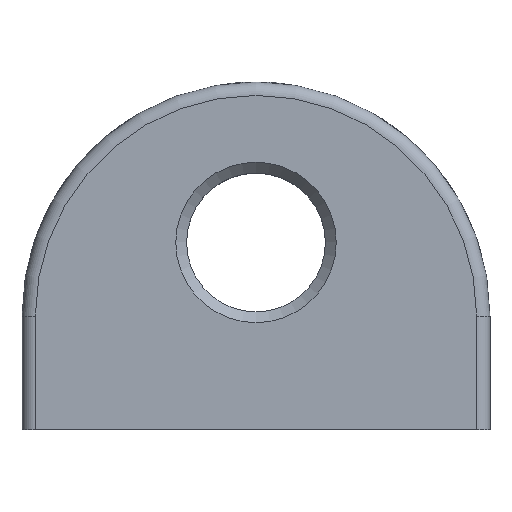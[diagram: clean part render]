
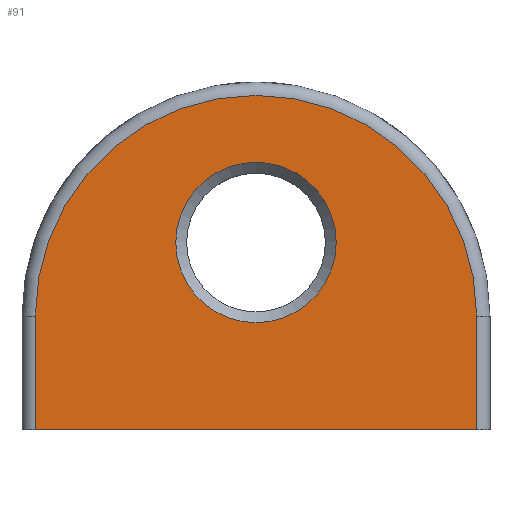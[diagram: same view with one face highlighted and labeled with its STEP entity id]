
A CAD part, top view. The second image highlights one B-rep face of the part: STEP entity #91.
In plain terms, the highlighted planar face has unit normal (0, 0, 1).
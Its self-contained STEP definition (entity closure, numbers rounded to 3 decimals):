
#91 = ADVANCED_FACE( '', ( #167, #168 ), #169, .F. );
#167 = FACE_BOUND( '', #296, .T. );
#168 = FACE_OUTER_BOUND( '', #297, .T. );
#169 = PLANE( '', #298 );
#296 = EDGE_LOOP( '', ( #491 ) );
#297 = EDGE_LOOP( '', ( #492, #493, #494, #495 ) );
#298 = AXIS2_PLACEMENT_3D( '', #496, #497, #498 );
#491 = ORIENTED_EDGE( '', *, *, #743, .T. );
#492 = ORIENTED_EDGE( '', *, *, #778, .F. );
#493 = ORIENTED_EDGE( '', *, *, #750, .F. );
#494 = ORIENTED_EDGE( '', *, *, #779, .T. );
#495 = ORIENTED_EDGE( '', *, *, #780, .T. );
#496 = CARTESIAN_POINT( '', ( -16.5, 8.5, 6. ) );
#497 = DIRECTION( '', ( 0., 0., -1. ) );
#498 = DIRECTION( '', ( -1., 0., 0. ) );
#743 = EDGE_CURVE( '', #848, #848, #849, .T. );
#750 = EDGE_CURVE( '', #861, #863, #864, .T. );
#778 = EDGE_CURVE( '', #863, #912, #913, .T. );
#779 = EDGE_CURVE( '', #861, #914, #915, .T. );
#780 = EDGE_CURVE( '', #914, #912, #916, .T. );
#848 = VERTEX_POINT( '', #1130 );
#849 = CIRCLE( '', #1131, 6. );
#861 = VERTEX_POINT( '', #1143 );
#863 = VERTEX_POINT( '', #1145 );
#864 = CIRCLE( '', #1146, 16.5 );
#912 = VERTEX_POINT( '', #1244 );
#913 = LINE( '', #1245, #1246 );
#914 = VERTEX_POINT( '', #1247 );
#915 = LINE( '', #1248, #1249 );
#916 = LINE( '', #1250, #1251 );
#1130 = CARTESIAN_POINT( '', ( -6., 14., 6. ) );
#1131 = AXIS2_PLACEMENT_3D( '', #1427, #1428, #1429 );
#1143 = CARTESIAN_POINT( '', ( -16.5, 8.5, 6. ) );
#1145 = CARTESIAN_POINT( '', ( 16.5, 8.5, 6. ) );
#1146 = AXIS2_PLACEMENT_3D( '', #1448, #1449, #1450 );
#1244 = CARTESIAN_POINT( '', ( 16.5, 0., 6. ) );
#1245 = CARTESIAN_POINT( '', ( 16.5, 8.5, 6. ) );
#1246 = VECTOR( '', #1501, 1000. );
#1247 = CARTESIAN_POINT( '', ( -16.5, 0., 6. ) );
#1248 = CARTESIAN_POINT( '', ( -16.5, 8.5, 6. ) );
#1249 = VECTOR( '', #1502, 1000. );
#1250 = CARTESIAN_POINT( '', ( -16.5, 0., 6. ) );
#1251 = VECTOR( '', #1503, 1000. );
#1427 = CARTESIAN_POINT( '', ( 0., 14., 6. ) );
#1428 = DIRECTION( '', ( 0., 0., -1. ) );
#1429 = DIRECTION( '', ( -1., 0., 0. ) );
#1448 = CARTESIAN_POINT( '', ( 0., 8.5, 6. ) );
#1449 = DIRECTION( '', ( 0., 0., -1. ) );
#1450 = DIRECTION( '', ( -1., 0., 0. ) );
#1501 = DIRECTION( '', ( 0., -1., 0. ) );
#1502 = DIRECTION( '', ( 0., -1., 0. ) );
#1503 = DIRECTION( '', ( 1., 0., 0. ) );
